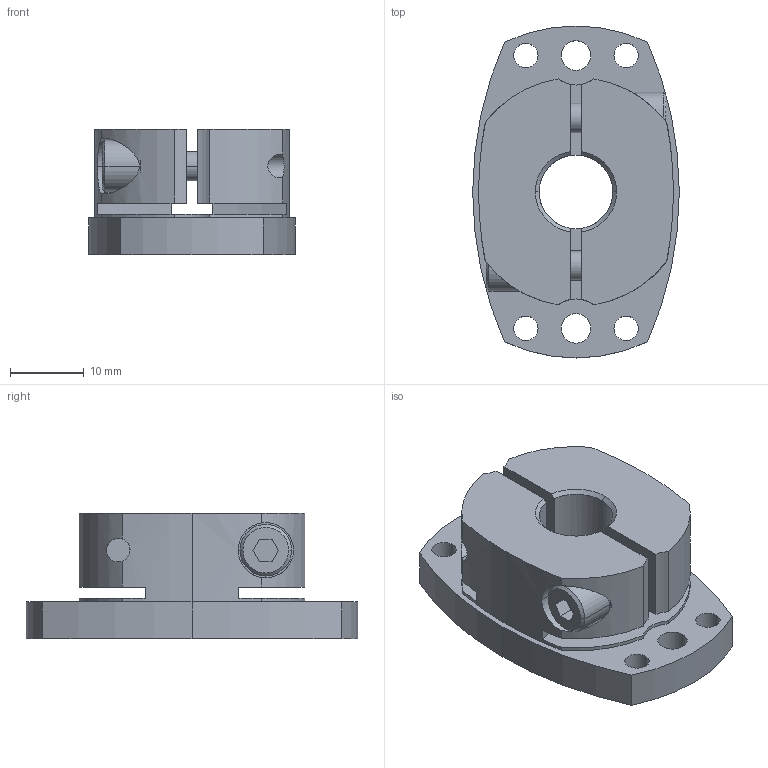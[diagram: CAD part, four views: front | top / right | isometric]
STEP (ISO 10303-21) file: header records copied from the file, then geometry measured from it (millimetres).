
FILE_DESCRIPTION((''),'2;1');
FILE_NAME('SHDB-45B-10.stp','2026-01-27T12:37:54',(''),(''),'AutoCAD STEP 2000i','AutoCAD 2000i',', , ');
FILE_SCHEMA(('CONFIG_CONTROL_DESIGN'));
Length unit declared in the file: millimetre
Products named in the file (2): SHDB-45B-10; 忣兜1
Assembly tree (1 placements, depth 2):
  SHDB-45B-10
    忣兜1
Bounding box: 28 x 45 x 17 mm (x, y, z)
Volume: 11033.7 mm3; surface area: 6056.6 mm2
Topology: 1 solids, 1 shells, 102 faces, 280 edges, 184 vertices
Faces by surface type: cylinder 58, plane 34, cone 10
Entity records: 3661 total; most frequent: CARTESIAN_POINT 834, DIRECTION 602, ORIENTED_EDGE 560, EDGE_CURVE 280, AXIS2_PLACEMENT_3D 238, VERTEX_POINT 184, CIRCLE 134, VECTOR 126
